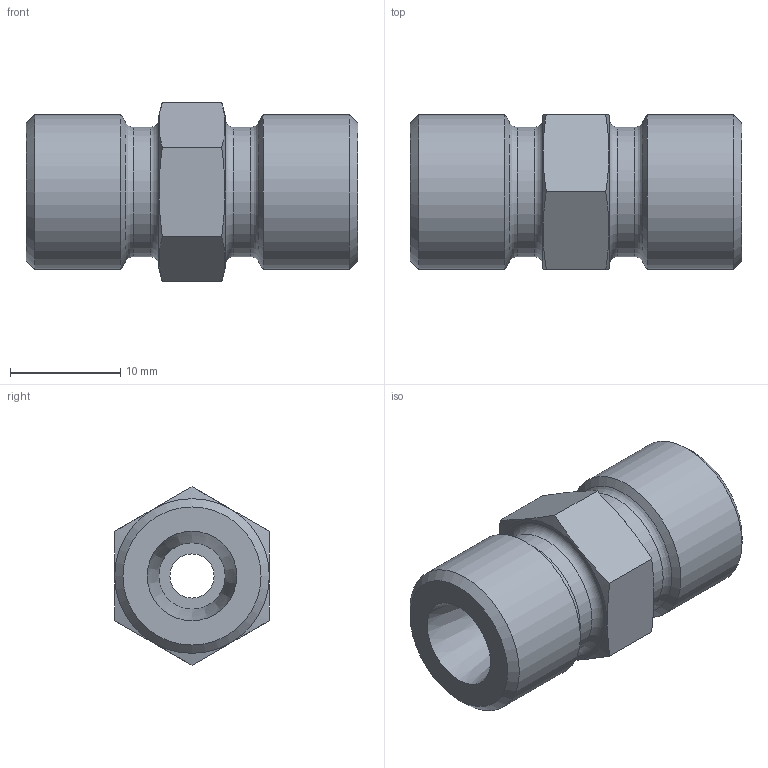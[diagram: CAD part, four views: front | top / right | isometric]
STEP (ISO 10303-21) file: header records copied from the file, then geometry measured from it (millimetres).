
FILE_DESCRIPTION( ( 'Unknown' ), '1' );
FILE_NAME( 'C:/Users/p.nanko/Desktop/3D SR/XG06S.stp', 'Unknown', ( 'Peter Nanko' ), ( 'Armaturen Arndt' ), 'PSStep 14.0', 'Solid Edge ST4', ' ' );
FILE_SCHEMA( ( 'AUTOMOTIVE_DESIGN { 1 0 10303 214 1 1 1 1 }' ) );
Length unit declared in the file: millimetre
Products named in the file (1): 1
Bounding box: 30 x 14 x 16.17 mm (x, y, z)
Volume: 3703.7 mm3; surface area: 2137.6 mm2
Topology: 1 solids, 1 shells, 31 faces, 65 edges, 40 vertices
Faces by surface type: plane 12, cone 8, cylinder 7, torus 4
Full cylindrical faces by diameter (mm): 4 x1, 6 x2, 11.7 x2, 14 x2
Entity records: 996 total; most frequent: CARTESIAN_POINT 170, DIRECTION 118, ORIENTED_EDGE 84, AXIS2_PLACEMENT_3D 56, EDGE_LOOP 56, FACE_OUTER_BOUND 42, EDGE_CURVE 42, VERTEX_POINT 36
